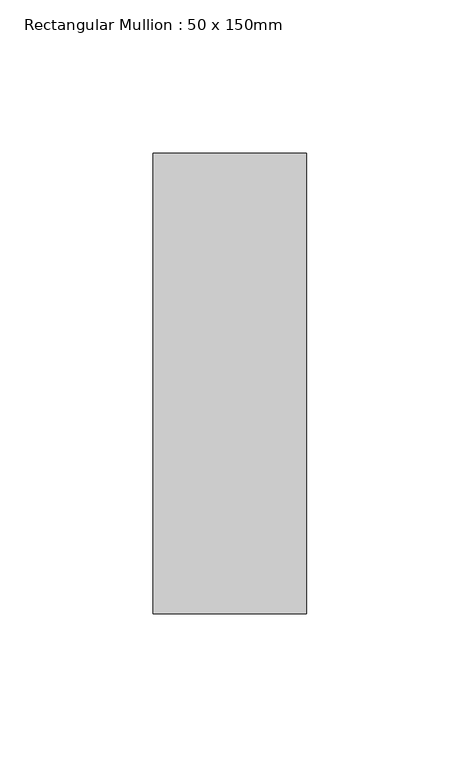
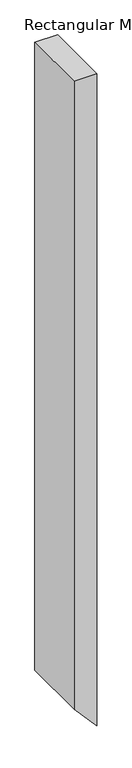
"""IFC4 building model written with IfcOpenShell, lengths in millimetres: member geometry, Rectangular Mullion : 50 x 150mm."""

from ifc_helpers import new_model, si_unit, frame, origin, place, context, project, spatial, polyline, outline, extrude, source, transform, mapped, element, save


def rectangular_mullion_50_x_150mm_19647155(model_context):
    return source(origin(), model_context, "Body", "SweptSolid", [
        extrude(outline(polyline([(0.0, 0.0), (0.0, -50.0), (-1467.9425115, -50.0), (-1523.7087038, 0.0), (0.0, 0.0)])), frame((0.0, -75.0, 0.0), z_axis=(0.0, 1.0, 0.0), x_axis=(0.0, 0.0, 1.0)), (0.0, 0.0, 1.0), 150.0),
    ])


if __name__ == "__main__":
    model = new_model("IFC4")
    model_context = context("Model", 3, world=origin())
    ifc_project = project(units=[si_unit("LENGTHUNIT", "METRE", prefix="MILLI")], contexts=[model_context])
    site = spatial("IfcSite", under=ifc_project)
    building = spatial("IfcBuilding", under=site)
    placement = place(None, origin())
    rectangular_mullion_50_x_150mm_shape = rectangular_mullion_50_x_150mm_19647155(model_context)
    element("IfcMember", 1, ObjectType="Rectangular Mullion : 50 x 150mm", at=placement, inside=building, context=model_context, shape_type="MappedRepresentation", body=[
        mapped(rectangular_mullion_50_x_150mm_shape, transform((0.0, 0.0, 0.0), x_axis=(1.0, 0.0, 0.0), y_axis=(0.0, 1.0, 0.0), z_axis=(0.0, 0.0, 1.0))),
    ])
    save(model, "model.ifc")
